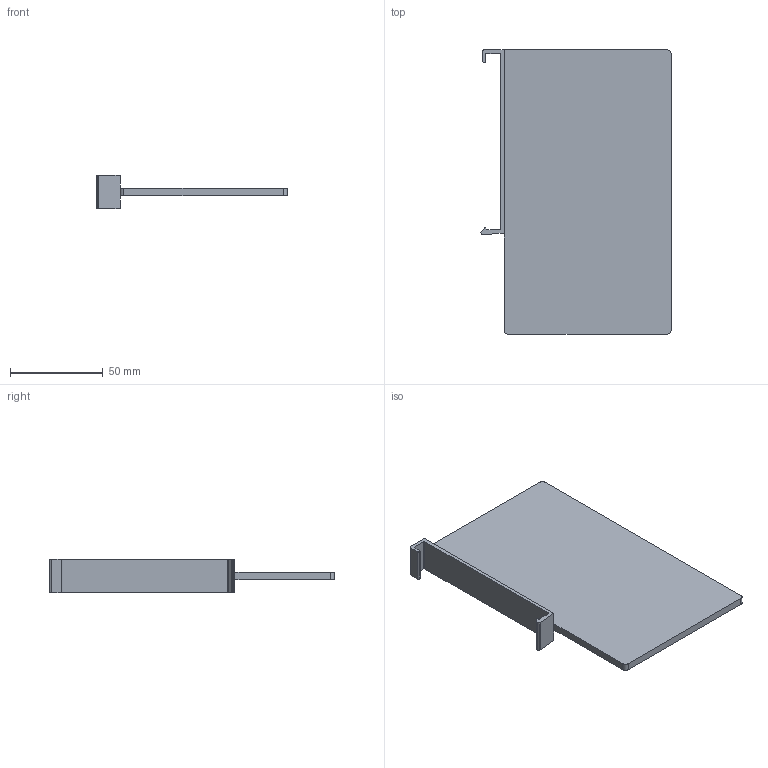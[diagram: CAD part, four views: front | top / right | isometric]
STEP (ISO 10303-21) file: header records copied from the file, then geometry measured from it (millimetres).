
FILE_DESCRIPTION (( 'STEP AP203' ), '1' );
FILE_NAME ('D10010949_Standard-Konfiguration_01.step', '2025-05-06T08:22:52', ( '' ), ( '' ), 'SwSTEP 2.0', 'SolidWorks 2023', '' );
FILE_SCHEMA (( 'CONFIG_CONTROL_DESIGN' ));
Length unit declared in the file: millimetre
Products named in the file (1): D10010949_Standard-Konfiguration_01
Bounding box: 102.47 x 153.3 x 18 mm (x, y, z)
Volume: 59674.7 mm3; surface area: 33754.5 mm2
Topology: 1 solids, 1 shells, 35 faces, 97 edges, 64 vertices
Faces by surface type: plane 21, cylinder 8, bspline 6
Entity records: 1206 total; most frequent: CARTESIAN_POINT 275, ORIENTED_EDGE 194, DIRECTION 161, EDGE_CURVE 97, VECTOR 69, LINE 69, VERTEX_POINT 64, AXIS2_PLACEMENT_3D 46
